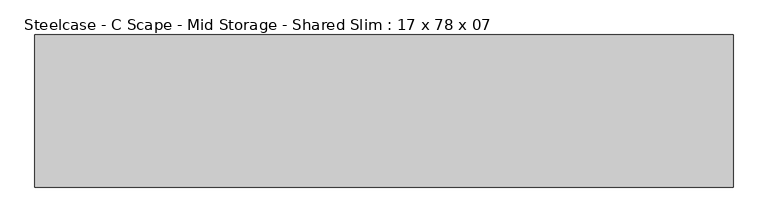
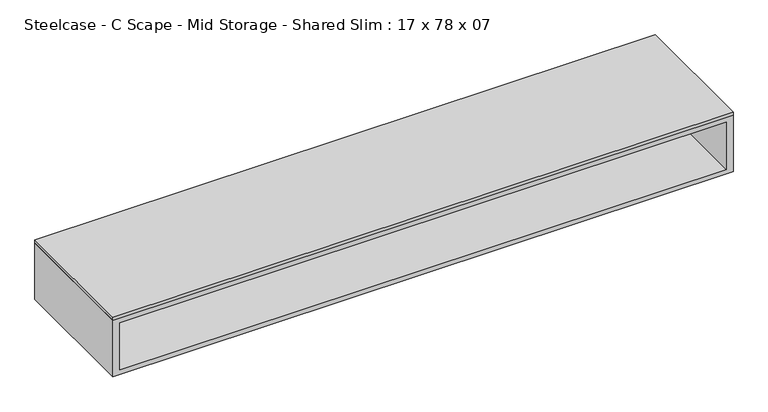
"""IFC4 building model written with IfcOpenShell, lengths in millimetres: furniture geometry, Steelcase - C Scape - Mid Storage - Shared Slim : 17 x 78 x 07."""

from ifc_helpers import new_model, si_unit, frame, origin, place, context, project, spatial, polyline, outline, extrude, source, transform, mapped, element, save


def steelcase_c_scape_mid_storage_shared_slim_17_x_78_x_07_2769707d(model_context):
    return source(origin(), model_context, "Body", "SweptSolid", [
        extrude(outline(polyline([(1981.2, 215.9), (1981.2, -215.9), (0.0, -215.9), (0.0, 215.9), (1981.2, 215.9)])), frame((0.0, 0.0, 1028.7), z_axis=(0.0, 0.0, 1.0), x_axis=(1.0, 0.0, 0.0)), (0.0, 0.0, 1.0), 10.16),
        extrude(outline(polyline([(1959.102, 3.1751841), (1959.102, -3.1744283), (21.9711633, -3.1744283), (21.9711633, 3.1751841), (1959.102, 3.1751841)])), frame((0.0, 0.0, 853.4399855), z_axis=(0.0, 0.0, 1.0), x_axis=(1.0, 0.0, 0.0)), (0.0, 0.0, 1.0), 160.0200145),
        extrude(outline(polyline([(1028.7, 1981.2), (1028.7, 0.0), (838.2, 0.0), (838.2, 1981.2), (1028.7, 1981.2)]), holes=[polyline([(1013.46, 1959.102), (853.4399855, 1959.102), (853.4399855, 21.9711633), (1013.46, 21.9711633), (1013.46, 1959.102)])]), frame((0.0, -215.9, 0.0), z_axis=(0.0, 1.0, 0.0), x_axis=(0.0, 0.0, 1.0)), (0.0, 0.0, 1.0), 431.8),
    ])


if __name__ == "__main__":
    model = new_model("IFC4")
    model_context = context("Model", 3, world=origin())
    ifc_project = project(units=[si_unit("LENGTHUNIT", "METRE", prefix="MILLI")], contexts=[model_context])
    site = spatial("IfcSite", under=ifc_project)
    building = spatial("IfcBuilding", under=site)
    placement = place(None, origin())
    steelcase_c_scape_mid_storage_shared_slim_17_x_78_x_07_shape = steelcase_c_scape_mid_storage_shared_slim_17_x_78_x_07_2769707d(model_context)
    element("IfcFurniture", 1, ObjectType="Steelcase - C Scape - Mid Storage - Shared Slim : 17 x 78 x 07", at=placement, inside=building, context=model_context, shape_type="MappedRepresentation", body=[
        mapped(steelcase_c_scape_mid_storage_shared_slim_17_x_78_x_07_shape, transform((0.0, 0.0, 0.0), x_axis=(1.0, 0.0, 0.0), y_axis=(0.0, 1.0, 0.0), z_axis=(0.0, 0.0, 1.0))),
    ])
    save(model, "model.ifc")
